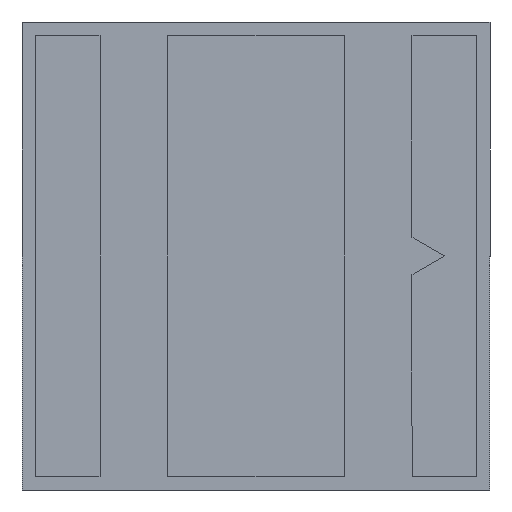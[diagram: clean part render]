
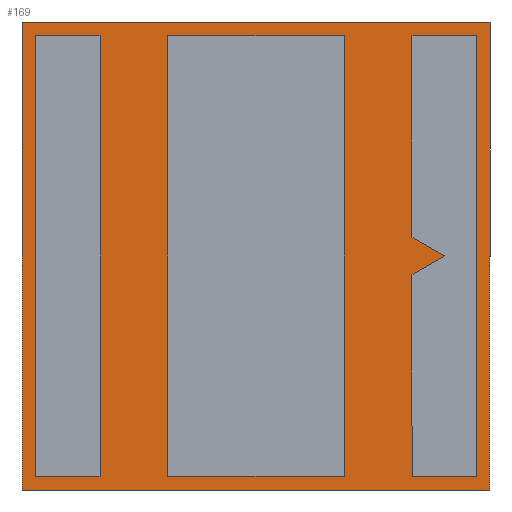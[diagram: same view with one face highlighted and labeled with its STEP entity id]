
A CAD part, front view. The second image highlights one B-rep face of the part: STEP entity #169.
In plain terms, the highlighted planar face has unit normal (0, -1, 0).
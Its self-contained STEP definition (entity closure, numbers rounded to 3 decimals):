
#4 = VECTOR ( 'NONE', #221, 1000. ) ;
#5 = LINE ( 'NONE', #868, #30 ) ;
#16 = LINE ( 'NONE', #742, #892 ) ;
#18 = VERTEX_POINT ( 'NONE', #272 ) ;
#30 = VECTOR ( 'NONE', #406, 1000. ) ;
#33 = EDGE_CURVE ( 'NONE', #252, #918, #951, .T. ) ;
#43 = EDGE_CURVE ( 'NONE', #860, #932, #239, .T. ) ;
#46 = DIRECTION ( 'NONE',  ( 1., 0., 0. ) ) ;
#48 = VERTEX_POINT ( 'NONE', #363 ) ;
#51 = ORIENTED_EDGE ( 'NONE', *, *, #451, .F. ) ;
#60 = LINE ( 'NONE', #752, #4 ) ;
#65 = VERTEX_POINT ( 'NONE', #826 ) ;
#71 = CARTESIAN_POINT ( 'NONE',  ( 1.625, 0., 1.625 ) ) ;
#76 = VECTOR ( 'NONE', #224, 1000. ) ;
#77 = VECTOR ( 'NONE', #901, 1000. ) ;
#78 = VECTOR ( 'NONE', #1004, 1000. ) ;
#98 = VECTOR ( 'NONE', #305, 1000. ) ;
#111 = FACE_BOUND ( 'NONE', #403, .T. ) ;
#112 = CARTESIAN_POINT ( 'NONE',  ( -1.725, 0., -1.725 ) ) ;
#114 = CARTESIAN_POINT ( 'NONE',  ( -1.15, 0., 1.625 ) ) ;
#121 = LINE ( 'NONE', #962, #927 ) ;
#124 = EDGE_LOOP ( 'NONE', ( #833, #140, #931, #167 ) ) ;
#127 = VERTEX_POINT ( 'NONE', #359 ) ;
#130 = EDGE_CURVE ( 'NONE', #127, #860, #16, .T. ) ;
#131 = LINE ( 'NONE', #832, #312 ) ;
#136 = ORIENTED_EDGE ( 'NONE', *, *, #771, .F. ) ;
#140 = ORIENTED_EDGE ( 'NONE', *, *, #1008, .F. ) ;
#142 = CARTESIAN_POINT ( 'NONE',  ( 1.387, 0., 0. ) ) ;
#153 = ORIENTED_EDGE ( 'NONE', *, *, #698, .F. ) ;
#159 = EDGE_CURVE ( 'NONE', #932, #18, #988, .T. ) ;
#167 = ORIENTED_EDGE ( 'NONE', *, *, #382, .F. ) ;
#169 = ADVANCED_FACE ( 'NONE', ( #111, #490, #413, #906 ), #684, .F. ) ;
#174 = CARTESIAN_POINT ( 'NONE',  ( -1.625, 0., -1.625 ) ) ;
#194 = EDGE_CURVE ( 'NONE', #485, #418, #589, .T. ) ;
#197 = EDGE_CURVE ( 'NONE', #391, #485, #1018, .T. ) ;
#200 = LINE ( 'NONE', #257, #1007 ) ;
#206 = CARTESIAN_POINT ( 'NONE',  ( 1.15, 0., -1.625 ) ) ;
#221 = DIRECTION ( 'NONE',  ( 0., 0., -1. ) ) ;
#222 = DIRECTION ( 'NONE',  ( 0., 0., 1. ) ) ;
#224 = DIRECTION ( 'NONE',  ( -1., 0., 0. ) ) ;
#239 = LINE ( 'NONE', #282, #566 ) ;
#244 = EDGE_CURVE ( 'NONE', #48, #360, #576, .T. ) ;
#249 = VECTOR ( 'NONE', #662, 1000. ) ;
#252 = VERTEX_POINT ( 'NONE', #392 ) ;
#256 = EDGE_CURVE ( 'NONE', #828, #516, #849, .T. ) ;
#257 = CARTESIAN_POINT ( 'NONE',  ( 1.15, 0., -0.137 ) ) ;
#272 = CARTESIAN_POINT ( 'NONE',  ( 1.15, 0., -0.137 ) ) ;
#282 = CARTESIAN_POINT ( 'NONE',  ( 1.387, 0., 0. ) ) ;
#287 = ORIENTED_EDGE ( 'NONE', *, *, #896, .F. ) ;
#290 = DIRECTION ( 'NONE',  ( 0., 0., 1. ) ) ;
#295 = VERTEX_POINT ( 'NONE', #471 ) ;
#305 = DIRECTION ( 'NONE',  ( -1., 0., 0. ) ) ;
#312 = VECTOR ( 'NONE', #441, 1000. ) ;
#339 = LINE ( 'NONE', #756, #476 ) ;
#341 = EDGE_LOOP ( 'NONE', ( #549, #51, #557, #590, #873, #136, #947 ) ) ;
#359 = CARTESIAN_POINT ( 'NONE',  ( 1.15, 0., 1.625 ) ) ;
#360 = VERTEX_POINT ( 'NONE', #559 ) ;
#363 = CARTESIAN_POINT ( 'NONE',  ( -1.15, 0., 1.625 ) ) ;
#380 = VECTOR ( 'NONE', #625, 1000. ) ;
#382 = EDGE_CURVE ( 'NONE', #516, #295, #5, .T. ) ;
#383 = CARTESIAN_POINT ( 'NONE',  ( -1.15, 0., 1.625 ) ) ;
#385 = EDGE_LOOP ( 'NONE', ( #852, #507, #414, #723 ) ) ;
#391 = VERTEX_POINT ( 'NONE', #715 ) ;
#392 = CARTESIAN_POINT ( 'NONE',  ( 1.625, 0., -1.625 ) ) ;
#403 = EDGE_LOOP ( 'NONE', ( #830, #287, #514, #153 ) ) ;
#406 = DIRECTION ( 'NONE',  ( 1., 0., 0. ) ) ;
#408 = CARTESIAN_POINT ( 'NONE',  ( 0.65, 0., -1.625 ) ) ;
#413 = FACE_BOUND ( 'NONE', #385, .T. ) ;
#414 = ORIENTED_EDGE ( 'NONE', *, *, #197, .F. ) ;
#418 = VERTEX_POINT ( 'NONE', #718 ) ;
#420 = VERTEX_POINT ( 'NONE', #174 ) ;
#430 = DIRECTION ( 'NONE',  ( -1., 0., 0. ) ) ;
#432 = DIRECTION ( 'NONE',  ( 0., 0., -1. ) ) ;
#441 = DIRECTION ( 'NONE',  ( 0., 0., -1. ) ) ;
#451 = EDGE_CURVE ( 'NONE', #18, #624, #200, .T. ) ;
#455 = LINE ( 'NONE', #917, #98 ) ;
#471 = CARTESIAN_POINT ( 'NONE',  ( 1.725, 0., 1.725 ) ) ;
#476 = VECTOR ( 'NONE', #46, 1000. ) ;
#485 = VERTEX_POINT ( 'NONE', #408 ) ;
#490 = FACE_OUTER_BOUND ( 'NONE', #124, .T. ) ;
#501 = EDGE_CURVE ( 'NONE', #418, #65, #656, .T. ) ;
#507 = ORIENTED_EDGE ( 'NONE', *, *, #194, .F. ) ;
#514 = ORIENTED_EDGE ( 'NONE', *, *, #579, .F. ) ;
#516 = VERTEX_POINT ( 'NONE', #898 ) ;
#527 = CARTESIAN_POINT ( 'NONE',  ( 1.387, 0., 0. ) ) ;
#540 = CARTESIAN_POINT ( 'NONE',  ( -0.65, 0., -1.625 ) ) ;
#546 = LINE ( 'NONE', #672, #77 ) ;
#549 = ORIENTED_EDGE ( 'NONE', *, *, #685, .F. ) ;
#557 = ORIENTED_EDGE ( 'NONE', *, *, #159, .F. ) ;
#559 = CARTESIAN_POINT ( 'NONE',  ( -1.625, 0., 1.625 ) ) ;
#561 = DIRECTION ( 'NONE',  ( 0., 0., -1. ) ) ;
#566 = VECTOR ( 'NONE', #829, 1000. ) ;
#576 = LINE ( 'NONE', #383, #680 ) ;
#579 = EDGE_CURVE ( 'NONE', #420, #900, #546, .T. ) ;
#589 = LINE ( 'NONE', #923, #78 ) ;
#590 = ORIENTED_EDGE ( 'NONE', *, *, #43, .F. ) ;
#594 = CARTESIAN_POINT ( 'NONE',  ( 1.625, 0., -1.625 ) ) ;
#624 = VERTEX_POINT ( 'NONE', #206 ) ;
#625 = DIRECTION ( 'NONE',  ( 1., 0., 0. ) ) ;
#629 = DIRECTION ( 'NONE',  ( 0., 0., 1. ) ) ;
#635 = VECTOR ( 'NONE', #855, 1000. ) ;
#638 = CARTESIAN_POINT ( 'NONE',  ( -1.725, 0., -1.725 ) ) ;
#656 = LINE ( 'NONE', #676, #858 ) ;
#662 = DIRECTION ( 'NONE',  ( 0., 0., 1. ) ) ;
#672 = CARTESIAN_POINT ( 'NONE',  ( -1.625, 0., -1.625 ) ) ;
#676 = CARTESIAN_POINT ( 'NONE',  ( 0.65, 0., 1.625 ) ) ;
#680 = VECTOR ( 'NONE', #863, 1000. ) ;
#684 = PLANE ( 'NONE',  #814 ) ;
#685 = EDGE_CURVE ( 'NONE', #624, #252, #339, .T. ) ;
#687 = LINE ( 'NONE', #114, #249 ) ;
#693 = CARTESIAN_POINT ( 'NONE',  ( 1.725, 0., -1.725 ) ) ;
#698 = EDGE_CURVE ( 'NONE', #360, #420, #131, .T. ) ;
#715 = CARTESIAN_POINT ( 'NONE',  ( -0.65, 0., -1.625 ) ) ;
#718 = CARTESIAN_POINT ( 'NONE',  ( 0.65, 0., 1.625 ) ) ;
#723 = ORIENTED_EDGE ( 'NONE', *, *, #919, .F. ) ;
#727 = CARTESIAN_POINT ( 'NONE',  ( 1.625, 0., 1.625 ) ) ;
#735 = DIRECTION ( 'NONE',  ( 0., 0., -1. ) ) ;
#742 = CARTESIAN_POINT ( 'NONE',  ( 1.15, 0., 1.625 ) ) ;
#752 = CARTESIAN_POINT ( 'NONE',  ( 1.725, 0., -1.725 ) ) ;
#756 = CARTESIAN_POINT ( 'NONE',  ( 1.15, 0., -1.625 ) ) ;
#771 = EDGE_CURVE ( 'NONE', #918, #127, #890, .T. ) ;
#801 = VERTEX_POINT ( 'NONE', #693 ) ;
#814 = AXIS2_PLACEMENT_3D ( 'NONE', #995, #854, #222 ) ;
#826 = CARTESIAN_POINT ( 'NONE',  ( -0.65, 0., 1.625 ) ) ;
#828 = VERTEX_POINT ( 'NONE', #112 ) ;
#829 = DIRECTION ( 'NONE',  ( 0.866, 0., -0.5 ) ) ;
#830 = ORIENTED_EDGE ( 'NONE', *, *, #244, .F. ) ;
#831 = VECTOR ( 'NONE', #629, 1000. ) ;
#832 = CARTESIAN_POINT ( 'NONE',  ( -1.625, 0., 1.625 ) ) ;
#833 = ORIENTED_EDGE ( 'NONE', *, *, #256, .F. ) ;
#849 = LINE ( 'NONE', #638, #831 ) ;
#852 = ORIENTED_EDGE ( 'NONE', *, *, #501, .F. ) ;
#854 = DIRECTION ( 'NONE',  ( 0., 1., 0. ) ) ;
#855 = DIRECTION ( 'NONE',  ( -0.866, 0., -0.5 ) ) ;
#858 = VECTOR ( 'NONE', #430, 1000. ) ;
#860 = VERTEX_POINT ( 'NONE', #893 ) ;
#863 = DIRECTION ( 'NONE',  ( -1., 0., 0. ) ) ;
#868 = CARTESIAN_POINT ( 'NONE',  ( -1.725, 0., 1.725 ) ) ;
#873 = ORIENTED_EDGE ( 'NONE', *, *, #130, .F. ) ;
#883 = CARTESIAN_POINT ( 'NONE',  ( -1.15, 0., -1.625 ) ) ;
#890 = LINE ( 'NONE', #71, #76 ) ;
#892 = VECTOR ( 'NONE', #432, 1000. ) ;
#893 = CARTESIAN_POINT ( 'NONE',  ( 1.15, 0., 0.137 ) ) ;
#896 = EDGE_CURVE ( 'NONE', #900, #48, #687, .T. ) ;
#898 = CARTESIAN_POINT ( 'NONE',  ( -1.725, 0., 1.725 ) ) ;
#900 = VERTEX_POINT ( 'NONE', #883 ) ;
#901 = DIRECTION ( 'NONE',  ( 1., 0., 0. ) ) ;
#906 = FACE_BOUND ( 'NONE', #341, .T. ) ;
#917 = CARTESIAN_POINT ( 'NONE',  ( -1.725, 0., -1.725 ) ) ;
#918 = VERTEX_POINT ( 'NONE', #727 ) ;
#919 = EDGE_CURVE ( 'NONE', #65, #391, #121, .T. ) ;
#923 = CARTESIAN_POINT ( 'NONE',  ( 0.65, 0., 1.625 ) ) ;
#927 = VECTOR ( 'NONE', #735, 1000. ) ;
#931 = ORIENTED_EDGE ( 'NONE', *, *, #946, .F. ) ;
#932 = VERTEX_POINT ( 'NONE', #527 ) ;
#946 = EDGE_CURVE ( 'NONE', #295, #801, #60, .T. ) ;
#947 = ORIENTED_EDGE ( 'NONE', *, *, #33, .F. ) ;
#951 = LINE ( 'NONE', #594, #959 ) ;
#959 = VECTOR ( 'NONE', #290, 1000. ) ;
#962 = CARTESIAN_POINT ( 'NONE',  ( -0.65, 0., 1.625 ) ) ;
#988 = LINE ( 'NONE', #142, #635 ) ;
#995 = CARTESIAN_POINT ( 'NONE',  ( 0., 0., 0. ) ) ;
#1004 = DIRECTION ( 'NONE',  ( 0., 0., 1. ) ) ;
#1007 = VECTOR ( 'NONE', #561, 1000. ) ;
#1008 = EDGE_CURVE ( 'NONE', #801, #828, #455, .T. ) ;
#1018 = LINE ( 'NONE', #540, #380 ) ;
